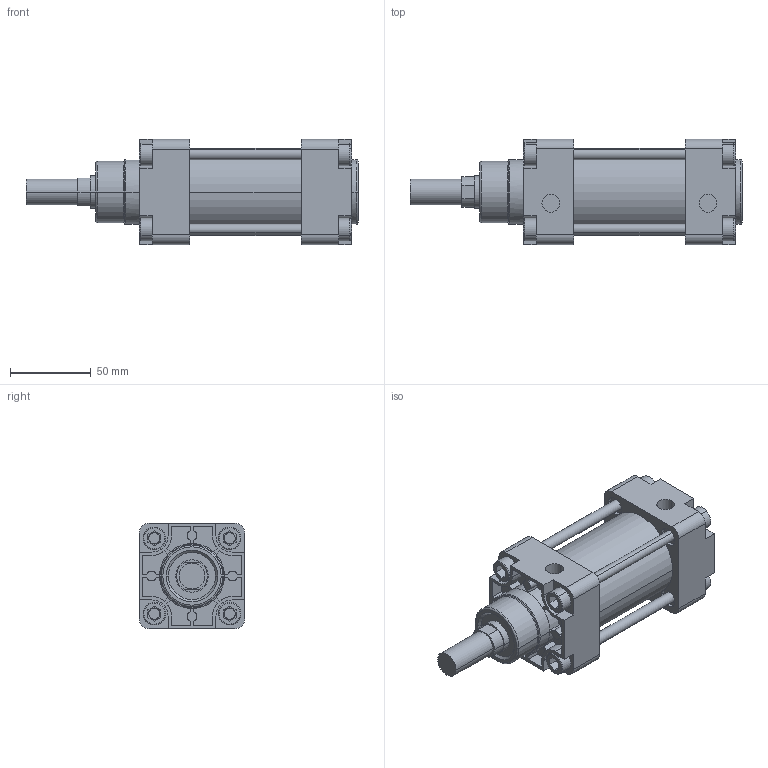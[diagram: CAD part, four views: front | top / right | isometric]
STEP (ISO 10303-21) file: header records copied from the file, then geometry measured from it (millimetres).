
FILE_DESCRIPTION(('CATIA V5 STEP Exchange'),'2;1');
FILE_NAME('D:\stp file for catalog\PNC\50\PNC 50-20-25.stp','2015-10-13T06:00:24+00:00',('none'),('none'),'Version 5-6 Release 2012','CATIA V5 STEP AP203','none');
FILE_SCHEMA(('CONFIG_CONTROL_DESIGN'));
Length unit declared in the file: millimetre
Products named in the file (1): PNC 50-20-25-00
Assembly tree (2 placements, depth 2):
  PNC 50-20-25-00
    #58
    #14116
Bounding box: 205 x 65 x 65 mm (x, y, z)
Volume: 387205.6 mm3; surface area: 115472.9 mm2
Topology: 6 solids, 6 shells, 536 faces, 1334 edges, 870 vertices
Faces by surface type: plane 324, cylinder 168, torus 26, extrusion 16, cone 2
Entity records: 14540 total; most frequent: CARTESIAN_POINT 2873, ORIENTED_EDGE 2668, DIRECTION 1792, EDGE_CURVE 1334, VECTOR 878, VERTEX_POINT 870, LINE 862, AXIS2_PLACEMENT_3D 661
